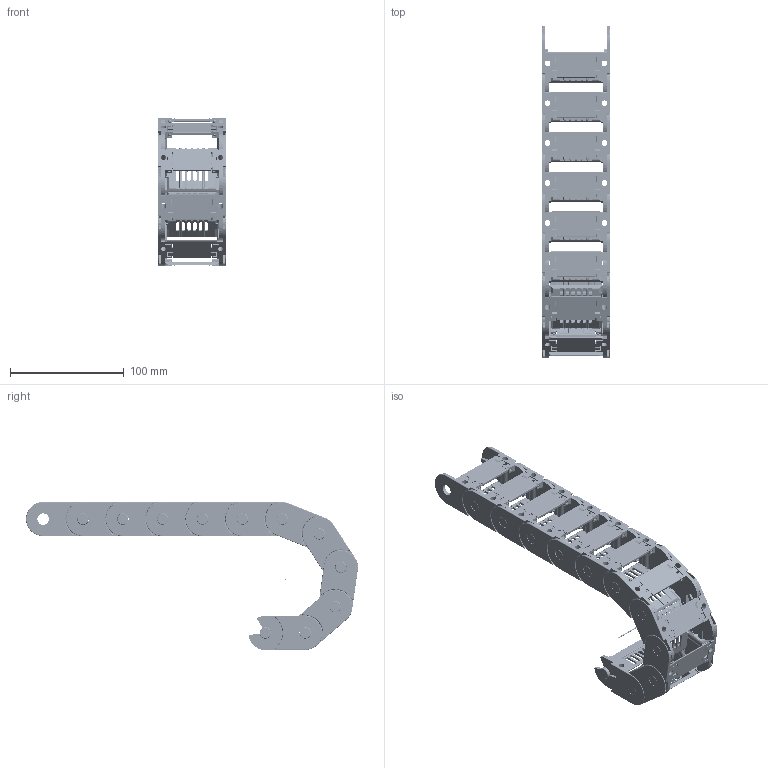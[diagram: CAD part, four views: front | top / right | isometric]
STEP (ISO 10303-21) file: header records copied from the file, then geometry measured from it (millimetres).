
FILE_DESCRIPTION((''),'2;1');
FILE_NAME('C:\Uebbing\PARAMETERKETTEN\KOLIBRI\Kol_30_060_1\KOLIBRI 30_060_1_R50.stp','2012-03-05T09:16:36',('Uebbing'),(''),'Autodesk Inventor 10','Autodesk Inventor 10','');
FILE_SCHEMA(('AUTOMOTIVE_DESIGN { 1 0 10303 214 1 1 1 1 }'));
Length unit declared in the file: millimetre
Products named in the file (5): KOLIBRI 30_060_1_PARAMETRISCH; Achse; Kolibri 30_060_1 Glied; Kol 30_060_1 Lasche; Kol 30_060_0 Klappsteg
Assembly tree (14 placements, depth 3):
  KOLIBRI 30_060_1_PARAMETRISCH
    Achse
    Kolibri 30_060_1 Glied  x11
      Kol 30_060_1 Lasche
      Kol 30_060_0 Klappsteg
Bounding box: 60 x 291.51 x 130 mm (x, y, z)
Volume: 173443.3 mm3; surface area: 165527.4 mm2
Topology: 23 solids, 23 shells, 7879 faces, 21927 edges, 14270 vertices
Faces by surface type: plane 3313, bspline 2651, cylinder 1563, torus 253, cone 66, sphere 33
Full cylindrical faces by diameter (mm): 1 x1, 1.166 x11, 2.048 x11, 2.8 x66, 5.1 x11, 10 x11, 10.1 x11
Entity records: 26291 total; most frequent: CARTESIAN_POINT 8629, ORIENTED_EDGE 3906, DIRECTION 3253, EDGE_CURVE 1953, VERTEX_POINT 1286, VECTOR 1211, LINE 1211, AXIS2_PLACEMENT_3D 1021
